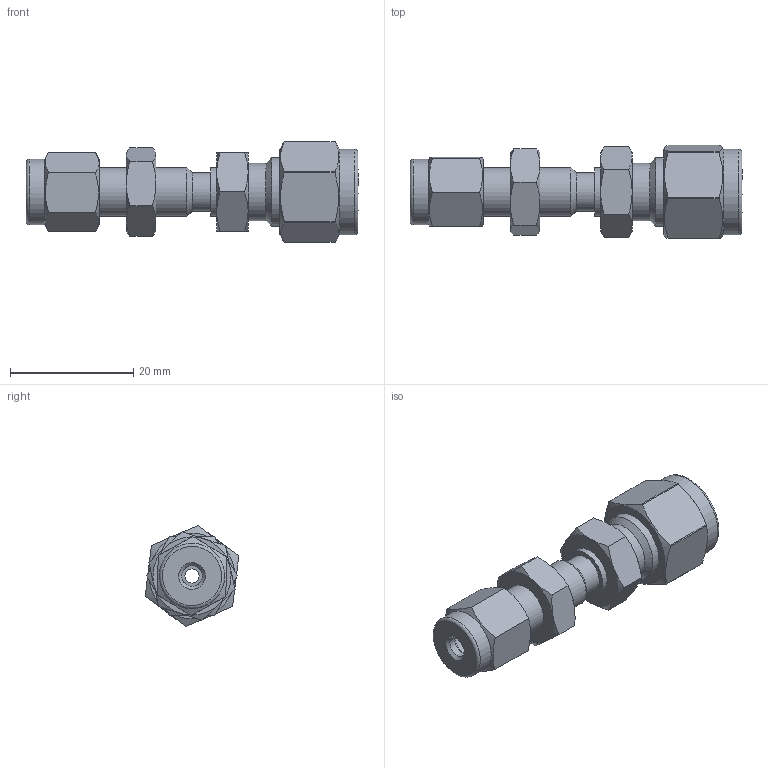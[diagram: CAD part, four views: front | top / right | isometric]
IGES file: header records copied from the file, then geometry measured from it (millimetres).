
Global section: file name: No Iges File Name specified; native system: Autodesk Inventor 2012; preprocessor: AutoDesk Inventor Iges Exporter R2012; author: 硅己绕,,1; organization: 1; date: 20150505.120841; units: millimetre
Bounding box: 53.9 x 15.18 x 16.3 mm (x, y, z)
Volume: 4644.6 mm3; surface area: 4407.7 mm2
Topology: 4 solids, 4 shells, 113 faces, 239 edges, 141 vertices
Faces by surface type: plane 39, cone 32, revolution 23, cylinder 15, torus 4
Full cylindrical faces by diameter (mm): 6.28 x2, 7.9 x1, 7.94 x1, 9.3 x1, 9.4 x1, 10.6 x1, 11.112 x1, 13.9 x1
